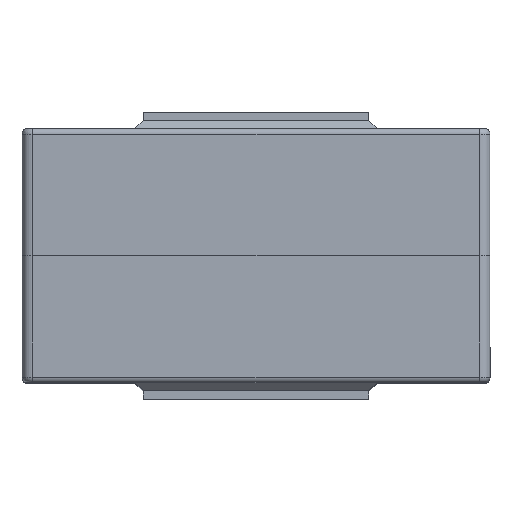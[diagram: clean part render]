
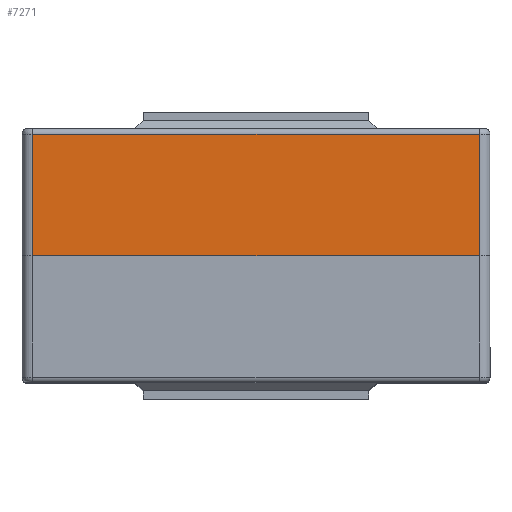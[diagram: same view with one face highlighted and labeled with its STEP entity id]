
A CAD part, top view. The second image highlights one B-rep face of the part: STEP entity #7271.
In plain terms, the highlighted planar face has unit normal (0, 0, 1) as drawn and (0, -1, 0) by its records, which use the part's own axes.
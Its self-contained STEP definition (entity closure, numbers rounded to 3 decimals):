
#4512 = EDGE_CURVE ( 'NONE', #5424, #5423, #12124, .T. ) ;
#4932 = EDGE_LOOP ( 'NONE', ( #6673, #6674, #6675, #6677 ) ) ;
#5423 = VERTEX_POINT ( 'NONE', #12425 ) ;
#5424 = VERTEX_POINT ( 'NONE', #12426 ) ;
#5542 = VERTEX_POINT ( 'NONE', #12544 ) ;
#5543 = VERTEX_POINT ( 'NONE', #12545 ) ;
#6673 = ORIENTED_EDGE ( 'NONE', *, *, #7296, .F. ) ;
#6674 = ORIENTED_EDGE ( 'NONE', *, *, #4512, .T. ) ;
#6675 = ORIENTED_EDGE ( 'NONE', *, *, #7297, .F. ) ;
#6677 = ORIENTED_EDGE ( 'NONE', *, *, #7199, .F. ) ;
#7199 = EDGE_CURVE ( 'NONE', #5542, #5543, #14230, .T. ) ;
#7271 = ADVANCED_FACE ( 'NONE', ( #14395 ), #14814, .F. ) ;
#7296 = EDGE_CURVE ( 'NONE', #5424, #5542, #14891, .T. ) ;
#7297 = EDGE_CURVE ( 'NONE', #5543, #5423, #14894, .T. ) ;
#12124 = LINE ( 'NONE', #12125, #12895 ) ;
#12125 = CARTESIAN_POINT ( 'NONE',  ( -32., -57.6, -11. ) ) ;
#12126 = DIRECTION ( 'NONE',  ( 1., 0., 0. ) ) ;
#12425 = CARTESIAN_POINT ( 'NONE',  ( 41.5, -57.6, -11. ) ) ;
#12426 = CARTESIAN_POINT ( 'NONE',  ( -41.5, -57.6, -11. ) ) ;
#12544 = CARTESIAN_POINT ( 'NONE',  ( -41.5, -57.6, 11.6 ) ) ;
#12545 = CARTESIAN_POINT ( 'NONE',  ( 41.5, -57.6, 11.6 ) ) ;
#12895 = VECTOR ( 'NONE', #12126, 1000. ) ;
#14230 = LINE ( 'NONE', #14231, #14294 ) ;
#14231 = CARTESIAN_POINT ( 'NONE',  ( -43.5, -57.6, 11.6 ) ) ;
#14232 = DIRECTION ( 'NONE',  ( 1., 0., 0. ) ) ;
#14294 = VECTOR ( 'NONE', #14232, 1000. ) ;
#14395 = FACE_OUTER_BOUND ( 'NONE', #4932, .T. ) ;
#14398 = AXIS2_PLACEMENT_3D ( 'NONE', #14815, #14816, #14817 ) ;
#14423 = VECTOR ( 'NONE', #14893, 1000. ) ;
#14424 = VECTOR ( 'NONE', #14896, 1000. ) ;
#14814 = PLANE ( 'NONE',  #14398 ) ;
#14815 = CARTESIAN_POINT ( 'NONE',  ( -43.5, -57.6, -40.15 ) ) ;
#14816 = DIRECTION ( 'NONE',  ( 0., 1., 0. ) ) ;
#14817 = DIRECTION ( 'NONE',  ( 0., 0., 1. ) ) ;
#14891 = LINE ( 'NONE', #14892, #14423 ) ;
#14892 = CARTESIAN_POINT ( 'NONE',  ( -41.5, -57.6, -40.15 ) ) ;
#14893 = DIRECTION ( 'NONE',  ( 0., 0., 1. ) ) ;
#14894 = LINE ( 'NONE', #14895, #14424 ) ;
#14895 = CARTESIAN_POINT ( 'NONE',  ( 41.5, -57.6, -40.15 ) ) ;
#14896 = DIRECTION ( 'NONE',  ( 0., 0., -1. ) ) ;
